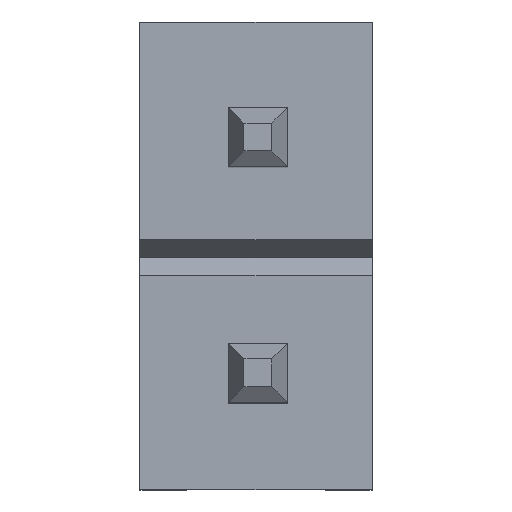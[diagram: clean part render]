
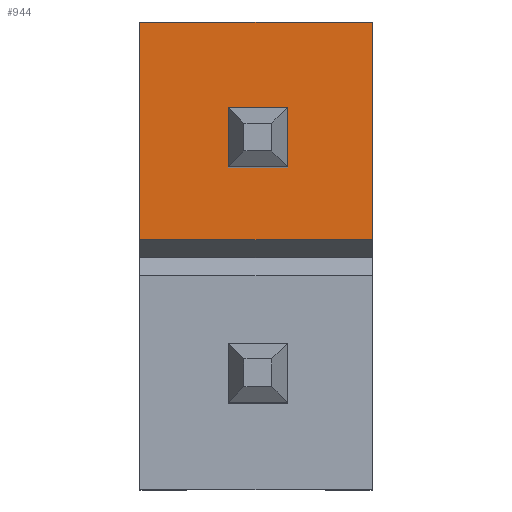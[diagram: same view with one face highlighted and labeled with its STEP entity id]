
A CAD part, top view. The second image highlights one B-rep face of the part: STEP entity #944.
In plain terms, the highlighted planar face has unit normal (0, 0, 1).
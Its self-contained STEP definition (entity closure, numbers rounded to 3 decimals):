
#13 = CARTESIAN_POINT ( 'NONE',  ( 4.071, 8.88, 4.806 ) ) ;
#48 = EDGE_CURVE ( 'NONE', #182, #737, #1331, .T. ) ;
#52 = DIRECTION ( 'NONE',  ( 0., 0., 1. ) ) ;
#83 = ORIENTED_EDGE ( 'NONE', *, *, #977, .T. ) ;
#97 = VECTOR ( 'NONE', #555, 1000. ) ;
#118 = DIRECTION ( 'NONE',  ( 1., 0., 0. ) ) ;
#133 = VECTOR ( 'NONE', #135, 1000. ) ;
#135 = DIRECTION ( 'NONE',  ( 0., 1., 0. ) ) ;
#136 = VERTEX_POINT ( 'NONE', #336 ) ;
#181 = VECTOR ( 'NONE', #603, 1000. ) ;
#182 = VERTEX_POINT ( 'NONE', #592 ) ;
#194 = DIRECTION ( 'NONE',  ( 1., 0., 0. ) ) ;
#200 = CARTESIAN_POINT ( 'NONE',  ( 4.071, 6.534, 4.806 ) ) ;
#215 = EDGE_LOOP ( 'NONE', ( #83, #1494, #1521, #1269 ) ) ;
#331 = FACE_OUTER_BOUND ( 'NONE', #215, .T. ) ;
#336 = CARTESIAN_POINT ( 'NONE',  ( 6.571, 6.534, 4.806 ) ) ;
#349 = VECTOR ( 'NONE', #386, 1000. ) ;
#362 = LINE ( 'NONE', #765, #875 ) ;
#368 = EDGE_LOOP ( 'NONE', ( #957, #1093, #778, #644 ) ) ;
#382 = VERTEX_POINT ( 'NONE', #1628 ) ;
#386 = DIRECTION ( 'NONE',  ( 0., -1., 0. ) ) ;
#393 = EDGE_CURVE ( 'NONE', #752, #1149, #1205, .T. ) ;
#397 = CARTESIAN_POINT ( 'NONE',  ( 5.661, 7.95, 4.806 ) ) ;
#450 = CARTESIAN_POINT ( 'NONE',  ( 6.571, 8.88, 4.806 ) ) ;
#534 = DIRECTION ( 'NONE',  ( 1., 0., 0. ) ) ;
#555 = DIRECTION ( 'NONE',  ( 1., 0., 0. ) ) ;
#592 = CARTESIAN_POINT ( 'NONE',  ( 5.021, 7.31, 4.806 ) ) ;
#593 = CARTESIAN_POINT ( 'NONE',  ( 5.021, 7.31, 4.806 ) ) ;
#603 = DIRECTION ( 'NONE',  ( 0., -1., 0. ) ) ;
#629 = VERTEX_POINT ( 'NONE', #397 ) ;
#643 = DIRECTION ( 'NONE',  ( -1., 0., 0. ) ) ;
#644 = ORIENTED_EDGE ( 'NONE', *, *, #834, .F. ) ;
#708 = CARTESIAN_POINT ( 'NONE',  ( 5.661, 7.31, 4.806 ) ) ;
#729 = CARTESIAN_POINT ( 'NONE',  ( 5.021, 7.95, 4.806 ) ) ;
#737 = VERTEX_POINT ( 'NONE', #708 ) ;
#740 = LINE ( 'NONE', #593, #181 ) ;
#752 = VERTEX_POINT ( 'NONE', #13 ) ;
#765 = CARTESIAN_POINT ( 'NONE',  ( 5.021, 7.95, 4.806 ) ) ;
#777 = LINE ( 'NONE', #1286, #133 ) ;
#778 = ORIENTED_EDGE ( 'NONE', *, *, #48, .F. ) ;
#834 = EDGE_CURVE ( 'NONE', #1213, #182, #740, .T. ) ;
#841 = PLANE ( 'NONE',  #958 ) ;
#875 = VECTOR ( 'NONE', #643, 1000. ) ;
#901 = LINE ( 'NONE', #1694, #349 ) ;
#914 = LINE ( 'NONE', #1184, #1534 ) ;
#944 = ADVANCED_FACE ( 'NONE', ( #1498, #331 ), #841, .T. ) ;
#953 = CARTESIAN_POINT ( 'NONE',  ( 5.021, 7.31, 4.806 ) ) ;
#957 = ORIENTED_EDGE ( 'NONE', *, *, #1328, .F. ) ;
#958 = AXIS2_PLACEMENT_3D ( 'NONE', #200, #52, #194 ) ;
#977 = EDGE_CURVE ( 'NONE', #382, #136, #1290, .T. ) ;
#1093 = ORIENTED_EDGE ( 'NONE', *, *, #1373, .T. ) ;
#1149 = VERTEX_POINT ( 'NONE', #450 ) ;
#1184 = CARTESIAN_POINT ( 'NONE',  ( 4.071, 6.534, 4.806 ) ) ;
#1201 = VECTOR ( 'NONE', #118, 1000. ) ;
#1205 = LINE ( 'NONE', #1229, #97 ) ;
#1213 = VERTEX_POINT ( 'NONE', #729 ) ;
#1229 = CARTESIAN_POINT ( 'NONE',  ( 4.071, 8.88, 4.806 ) ) ;
#1269 = ORIENTED_EDGE ( 'NONE', *, *, #1374, .T. ) ;
#1286 = CARTESIAN_POINT ( 'NONE',  ( 6.571, 6.534, 4.806 ) ) ;
#1290 = LINE ( 'NONE', #1681, #1201 ) ;
#1328 = EDGE_CURVE ( 'NONE', #629, #1213, #362, .T. ) ;
#1331 = LINE ( 'NONE', #953, #1425 ) ;
#1337 = EDGE_CURVE ( 'NONE', #136, #1149, #777, .T. ) ;
#1373 = EDGE_CURVE ( 'NONE', #629, #737, #901, .T. ) ;
#1374 = EDGE_CURVE ( 'NONE', #752, #382, #914, .T. ) ;
#1425 = VECTOR ( 'NONE', #534, 1000. ) ;
#1494 = ORIENTED_EDGE ( 'NONE', *, *, #1337, .T. ) ;
#1498 = FACE_BOUND ( 'NONE', #368, .T. ) ;
#1521 = ORIENTED_EDGE ( 'NONE', *, *, #393, .F. ) ;
#1534 = VECTOR ( 'NONE', #1707, 1000. ) ;
#1628 = CARTESIAN_POINT ( 'NONE',  ( 4.071, 6.534, 4.806 ) ) ;
#1681 = CARTESIAN_POINT ( 'NONE',  ( 4.071, 6.534, 4.806 ) ) ;
#1694 = CARTESIAN_POINT ( 'NONE',  ( 5.661, 6.534, 4.806 ) ) ;
#1707 = DIRECTION ( 'NONE',  ( 0., -1., 0. ) ) ;
